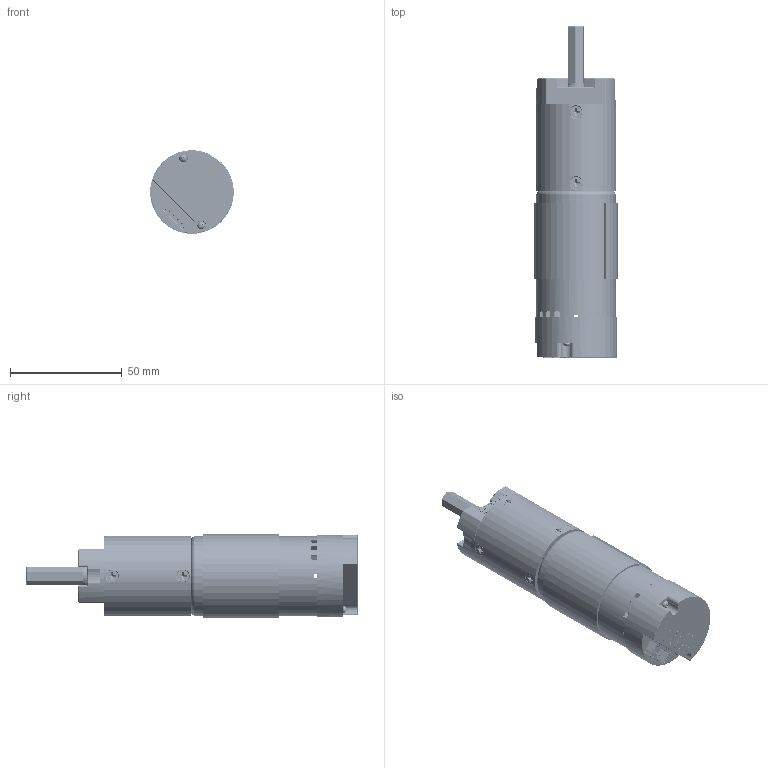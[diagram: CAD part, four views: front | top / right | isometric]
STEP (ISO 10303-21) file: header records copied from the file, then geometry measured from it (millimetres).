
FILE_DESCRIPTION (( 'STEP AP203' ), '1' );
FILE_NAME ('5203-2402-0100 assembly simple.STEP', '2021-01-06T21:18:14', ( '' ), ( '' ), 'SwSTEP 2.0', 'SolidWorks 2016', '' );
FILE_SCHEMA (( 'CONFIG_CONTROL_DESIGN' ));
Length unit declared in the file: millimetre
Products named in the file (17): 5203-2402-0100 assembly simple; 5000-0001-0001 encoder pins_MalePinHeader_1X2; 5103 Gearbox Base Mounting Screw M3 x 5mm length SHCS)_91290A110; 5000-0001-0001 motor shield; 5103-2402-0100 Simple; 5103 Gearbox Face; 5000-0001-0001 encoder pin housing; 5103 Gearbox Snap Ring; 5000-0001-0001 encoder cap; 5103 Gearbox Barrel (3 stage, simple)_Gear Blank; 5000-0001-0001 encoder cap screw_90190A075; 5103 Gearbox Bearing; 5103 Gearbox Base; 5000-0002-0001 body; 5103 Gearbox Shaft (23.5mm Length, Simple); 5103 Gearbox Barrel Screw (M3 x 8mm length Flat Head)_92010A118; 5000-0002-0117 motor shaft
Assembly tree (29 placements, depth 3):
  5203-2402-0100 assembly simple
    5000-0002-0001 body
    5000-0001-0001 encoder cap
    5000-0001-0001 encoder cap screw_90190A075  x2
    5000-0001-0001 encoder pin housing
    5000-0001-0001 encoder pins_MalePinHeader_1X2  x2
    5000-0001-0001 motor shield
    5000-0002-0117 motor shaft
    5103-2402-0100 Simple
      5103 Gearbox Base
      5103 Gearbox Barrel (3 stage, simple)_Gear Blank
      5103 Gearbox Barrel Screw (M3 x 8mm length Flat Head)_92010A118  x8
      5103 Gearbox Face
      5103 Gearbox Bearing  x2
      5103 Gearbox Shaft (23.5mm Length, Simple)
      5103 Gearbox Snap Ring
    5103 Gearbox Base Mounting Screw M3 x 5mm length SHCS)_91290A110  x4
Bounding box: 37.46 x 148.75 x 37.46 mm (x, y, z)
Volume: 68607.2 mm3; surface area: 50728.2 mm2
Topology: 66 solids, 66 shells, 4682 faces, 12165 edges, 7692 vertices
Faces by surface type: cylinder 2231, plane 918, bspline 681, cone 435, torus 251, sphere 166
Entity records: 149689 total; most frequent: CARTESIAN_POINT 83333, ORIENTED_EDGE 15760, DIRECTION 10977, EDGE_CURVE 7880, VERTEX_POINT 5118, AXIS2_PLACEMENT_3D 3856, VECTOR 3265, LINE 3265
